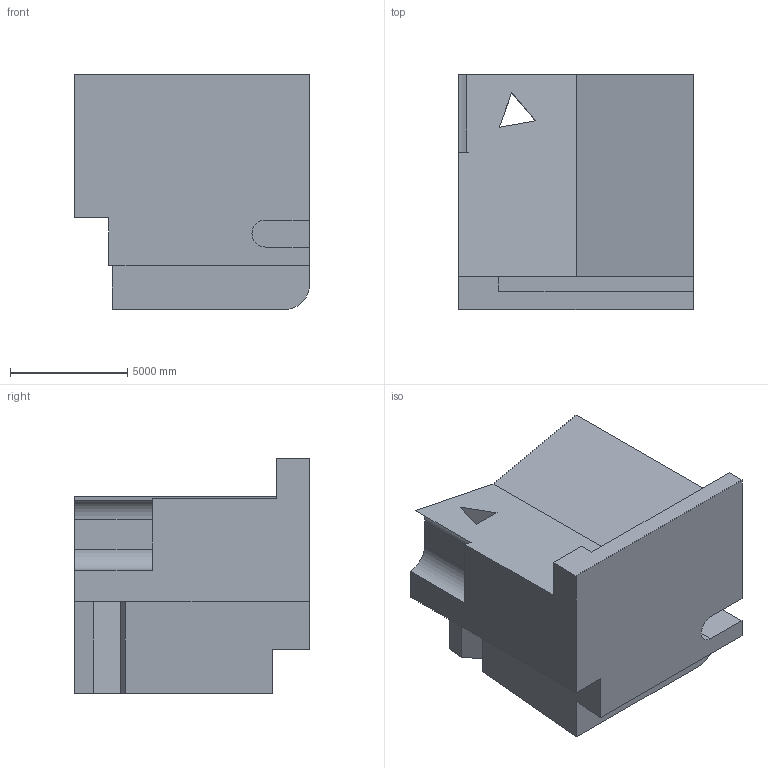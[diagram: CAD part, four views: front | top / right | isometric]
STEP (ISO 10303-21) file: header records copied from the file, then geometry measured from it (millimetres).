
FILE_DESCRIPTION (( 'STEP AP203' ), '1' );
FILE_NAME ('1896.STEP', '2022-08-25T16:23:23', ( 'user' ), ( '' ), 'SwSTEP 2.0', 'SolidWorks 2021', '' );
FILE_SCHEMA (( 'CONFIG_CONTROL_DESIGN' ));
Length unit declared in the file: centimetre
Products named in the file (1): 1896
Bounding box: 10000 x 10000 x 10000 mm (x, y, z)
Volume: 664122157226.3 mm3; surface area: 629255045.9 mm2
Topology: 1 solids, 1 shells, 33 faces, 93 edges, 62 vertices
Faces by surface type: plane 29, cylinder 4
Entity records: 1136 total; most frequent: CARTESIAN_POINT 189, ORIENTED_EDGE 186, DIRECTION 169, EDGE_CURVE 93, VECTOR 85, LINE 85, VERTEX_POINT 62, AXIS2_PLACEMENT_3D 42
